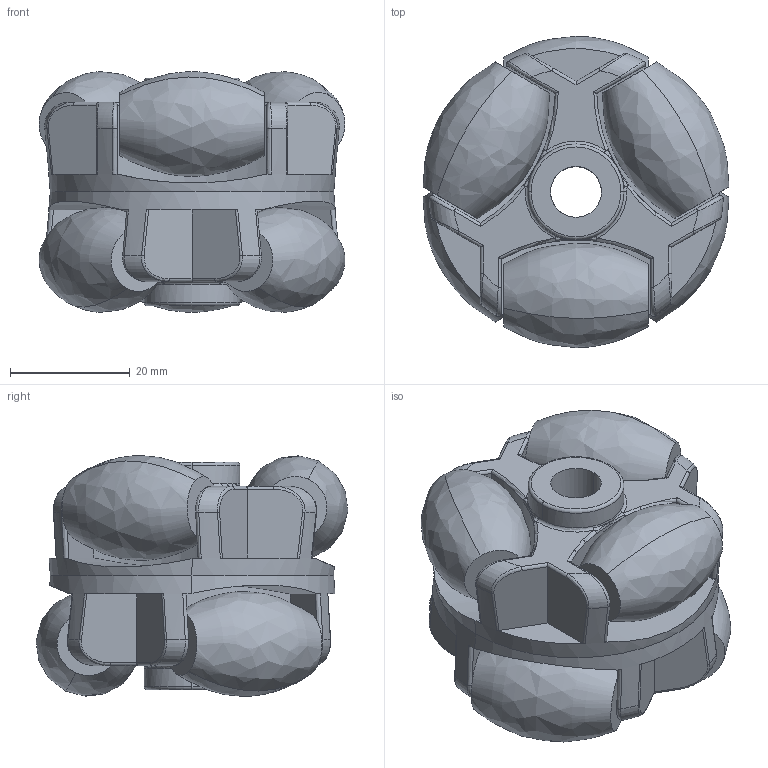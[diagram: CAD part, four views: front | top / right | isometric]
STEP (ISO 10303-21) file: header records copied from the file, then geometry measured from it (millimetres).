
FILE_DESCRIPTION (( 'STEP AP203' ), '1' );
FILE_NAME ('-52.STEP', '2024-12-20T09:26:30', ( '' ), ( '' ), 'SwSTEP 2.0', 'SolidWorks 2021', '' );
FILE_SCHEMA (( 'CONFIG_CONTROL_DESIGN' ));
Length unit declared in the file: millimetre
Products named in the file (1): -52
Bounding box: 51.12 x 52.07 x 40.19 mm (x, y, z)
Volume: 50012.6 mm3; surface area: 18940.8 mm2
Topology: 7 solids, 7 shells, 242 faces, 566 edges, 338 vertices
Faces by surface type: bspline 96, plane 62, cylinder 44, torus 36, cone 4
Entity records: 13309 total; most frequent: CARTESIAN_POINT 8577, ORIENTED_EDGE 1132, DIRECTION 708, EDGE_CURVE 566, VERTEX_POINT 338, AXIS2_PLACEMENT_3D 297, B_SPLINE_CURVE_WITH_KNOTS 296, EDGE_LOOP 244
